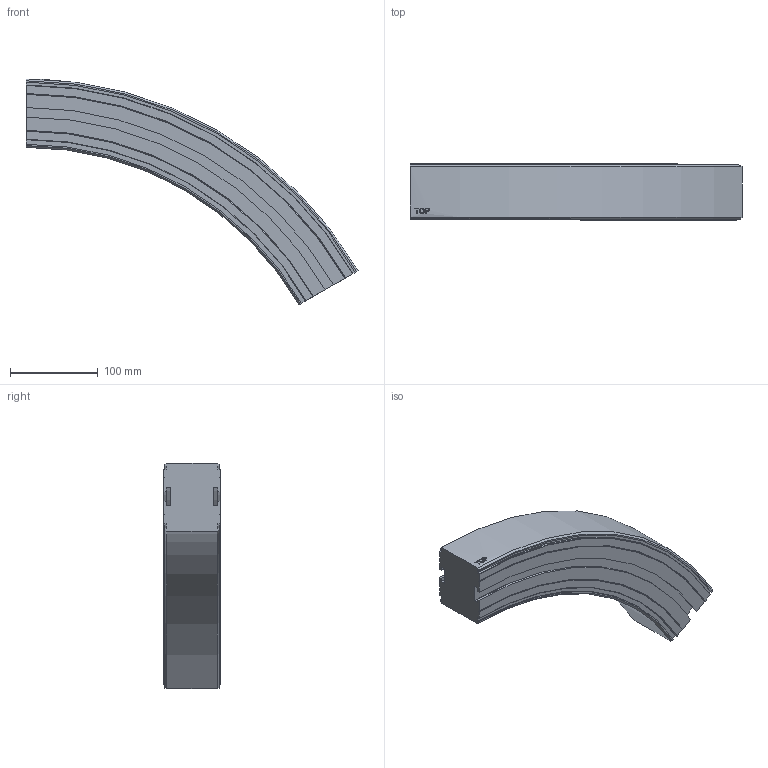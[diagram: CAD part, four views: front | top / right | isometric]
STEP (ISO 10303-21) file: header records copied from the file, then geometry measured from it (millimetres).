
FILE_DESCRIPTION((''),'2;1');
FILE_NAME('C:\Vault Klient\Projekt\Koncept konstruktion\Serie 620 Balk\620-5630_DOWN.stp','2009-11-26T15:41:08',('Mathias'),(''),'Autodesk Inventor 2010','Autodesk Inventor 2010','');
FILE_SCHEMA(('AUTOMOTIVE_DESIGN { 1 0 10303 214 1 1 1 1 }'));
Length unit declared in the file: millimetre
Products named in the file (1): 620-5630_DOWN
Bounding box: 379.32 x 64 x 258 mm (x, y, z)
Volume: 1943141.3 mm3; surface area: 160025.6 mm2
Topology: 1 solids, 1 shells, 93 faces, 258 edges, 172 vertices
Faces by surface type: plane 40, cylinder 23, bspline 14, cone 12, torus 4
Entity records: 3397 total; most frequent: CARTESIAN_POINT 962, ORIENTED_EDGE 516, DIRECTION 472, EDGE_CURVE 258, VERTEX_POINT 172, AXIS2_PLACEMENT_3D 162, VECTOR 148, LINE 148
